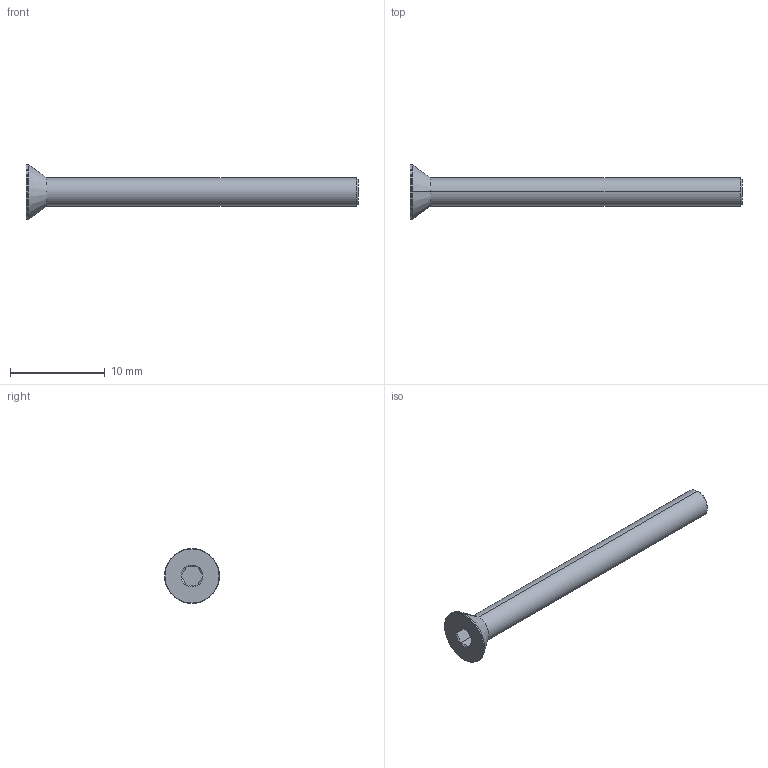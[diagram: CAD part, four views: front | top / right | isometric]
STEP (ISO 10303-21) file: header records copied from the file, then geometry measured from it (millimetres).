
FILE_DESCRIPTION (( 'STEP AP203' ), '1' );
FILE_NAME ('LGDB-TDE-M3x35.STEP', '2026-08-10T11:46:58', ( '' ), ( '' ), 'SwSTEP 2.0', 'SolidWorks 2020', '' );
FILE_SCHEMA (( 'CONFIG_CONTROL_DESIGN' ));
Length unit declared in the file: millimetre
Products named in the file (1): LGDB-TDE-M3x35
Bounding box: 35 x 5.8 x 5.8 mm (x, y, z)
Volume: 263.1 mm3; surface area: 388.5 mm2
Topology: 1 solids, 1 shells, 28 faces, 53 edges, 28 vertices
Faces by surface type: cone 11, plane 9, torus 4, cylinder 4
Entity records: 780 total; most frequent: CARTESIAN_POINT 141, DIRECTION 129, ORIENTED_EDGE 106, AXIS2_PLACEMENT_3D 54, EDGE_CURVE 53, EDGE_LOOP 29, FACE_OUTER_BOUND 28, ADVANCED_FACE 28
